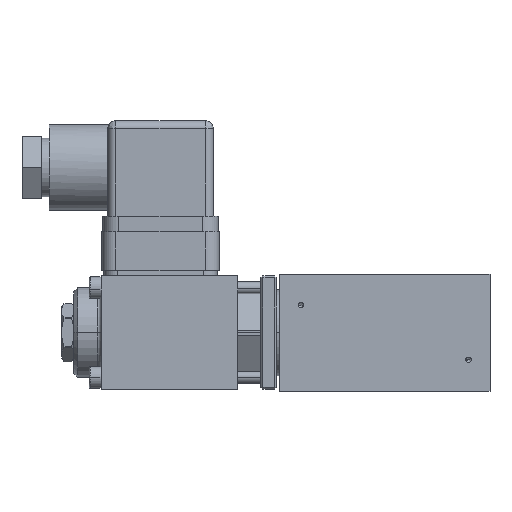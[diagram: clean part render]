
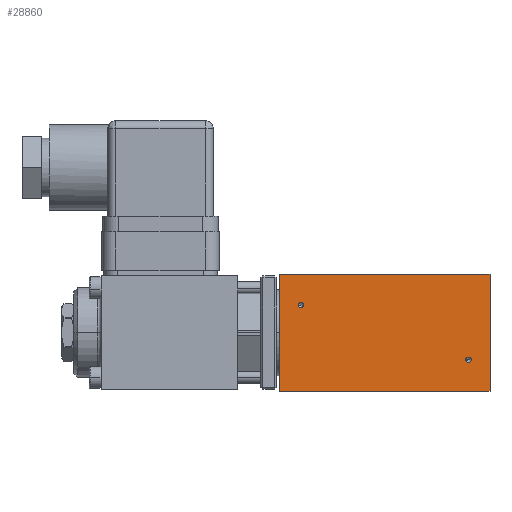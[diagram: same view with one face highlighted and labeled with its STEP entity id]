
A CAD part, top view. The second image highlights one B-rep face of the part: STEP entity #28860.
In plain terms, the highlighted planar face has unit normal (0, 0, 1).
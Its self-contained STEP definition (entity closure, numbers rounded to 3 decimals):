
#11 = CARTESIAN_POINT ( 'NONE',  ( -27., -15., 15. ) ) ;
#70 = VERTEX_POINT ( 'NONE', #11 ) ;
#140 = FACE_BOUND ( 'NONE', #12083, .T. ) ;
#326 = PLANE ( 'NONE',  #31766 ) ;
#454 = DIRECTION ( 'NONE',  ( 0., 0., 1. ) ) ;
#1011 = AXIS2_PLACEMENT_3D ( 'NONE', #28505, #11798, #31303 ) ;
#1054 = CARTESIAN_POINT ( 'NONE',  ( 21.5, -7., 15. ) ) ;
#1313 = VERTEX_POINT ( 'NONE', #20237 ) ;
#1471 = EDGE_CURVE ( 'NONE', #23912, #6515, #25928, .T. ) ;
#1763 = EDGE_CURVE ( 'NONE', #17371, #70, #21532, .T. ) ;
#3881 = DIRECTION ( 'NONE',  ( 1., 0., 0. ) ) ;
#4022 = EDGE_CURVE ( 'NONE', #11836, #20517, #35430, .T. ) ;
#6142 = AXIS2_PLACEMENT_3D ( 'NONE', #34034, #34078, #34196 ) ;
#6515 = VERTEX_POINT ( 'NONE', #14982 ) ;
#6541 = DIRECTION ( 'NONE',  ( 1., 0., 0. ) ) ;
#6782 = DIRECTION ( 'NONE',  ( 0., 0., 1. ) ) ;
#8561 = FACE_OUTER_BOUND ( 'NONE', #33897, .T. ) ;
#9745 = CARTESIAN_POINT ( 'NONE',  ( -27., 15., 15. ) ) ;
#9883 = ORIENTED_EDGE ( 'NONE', *, *, #14032, .F. ) ;
#9933 = VECTOR ( 'NONE', #16464, 1000. ) ;
#11204 = CARTESIAN_POINT ( 'NONE',  ( 20.8, -7., 15. ) ) ;
#11798 = DIRECTION ( 'NONE',  ( 0., 0., 1. ) ) ;
#11836 = VERTEX_POINT ( 'NONE', #34454 ) ;
#11930 = CARTESIAN_POINT ( 'NONE',  ( -27., 15., 15. ) ) ;
#12083 = EDGE_LOOP ( 'NONE', ( #9883, #35255 ) ) ;
#12091 = ORIENTED_EDGE ( 'NONE', *, *, #20525, .T. ) ;
#12607 = DIRECTION ( 'NONE',  ( 0., -1., 0. ) ) ;
#14032 = EDGE_CURVE ( 'NONE', #6515, #23912, #28497, .T. ) ;
#14109 = VECTOR ( 'NONE', #12607, 1000. ) ;
#14871 = EDGE_LOOP ( 'NONE', ( #26315, #16456 ) ) ;
#14982 = CARTESIAN_POINT ( 'NONE',  ( 22.2, -7., 15. ) ) ;
#16456 = ORIENTED_EDGE ( 'NONE', *, *, #30031, .F. ) ;
#16464 = DIRECTION ( 'NONE',  ( 1., 0., 0. ) ) ;
#16597 = CARTESIAN_POINT ( 'NONE',  ( -27., 15., 15. ) ) ;
#16946 = DIRECTION ( 'NONE',  ( 0., 1., 0. ) ) ;
#17371 = VERTEX_POINT ( 'NONE', #16597 ) ;
#17425 = EDGE_CURVE ( 'NONE', #25510, #1313, #24795, .T. ) ;
#17460 = VECTOR ( 'NONE', #16946, 1000. ) ;
#17488 = CARTESIAN_POINT ( 'NONE',  ( 0., 0., 15. ) ) ;
#19706 = ORIENTED_EDGE ( 'NONE', *, *, #17425, .T. ) ;
#20237 = CARTESIAN_POINT ( 'NONE',  ( 27., 15., 15. ) ) ;
#20257 = DIRECTION ( 'NONE',  ( 1., 0., 0. ) ) ;
#20517 = VERTEX_POINT ( 'NONE', #24886 ) ;
#20525 = EDGE_CURVE ( 'NONE', #70, #25510, #32243, .T. ) ;
#20591 = CARTESIAN_POINT ( 'NONE',  ( -21.5, 7., 15. ) ) ;
#20858 = DIRECTION ( 'NONE',  ( 0., 0., 1. ) ) ;
#21532 = LINE ( 'NONE', #11930, #14109 ) ;
#22089 = CARTESIAN_POINT ( 'NONE',  ( -27., -15., 15. ) ) ;
#22687 = FACE_BOUND ( 'NONE', #14871, .T. ) ;
#23581 = ORIENTED_EDGE ( 'NONE', *, *, #1763, .T. ) ;
#23912 = VERTEX_POINT ( 'NONE', #11204 ) ;
#24449 = CARTESIAN_POINT ( 'NONE',  ( 27., -15., 15. ) ) ;
#24795 = LINE ( 'NONE', #33550, #17460 ) ;
#24886 = CARTESIAN_POINT ( 'NONE',  ( -22.2, 7., 15. ) ) ;
#24959 = ORIENTED_EDGE ( 'NONE', *, *, #26466, .T. ) ;
#25510 = VERTEX_POINT ( 'NONE', #24449 ) ;
#25928 = CIRCLE ( 'NONE', #6142, 0.7 ) ;
#26315 = ORIENTED_EDGE ( 'NONE', *, *, #4022, .F. ) ;
#26466 = EDGE_CURVE ( 'NONE', #1313, #17371, #29009, .T. ) ;
#27288 = CIRCLE ( 'NONE', #1011, 0.7 ) ;
#28175 = AXIS2_PLACEMENT_3D ( 'NONE', #20591, #6782, #6541 ) ;
#28497 = CIRCLE ( 'NONE', #30976, 0.7 ) ;
#28505 = CARTESIAN_POINT ( 'NONE',  ( -21.5, 7., 15. ) ) ;
#28860 = ADVANCED_FACE ( 'NONE', ( #22687, #140, #8561 ), #326, .T. ) ;
#29009 = LINE ( 'NONE', #9745, #36486 ) ;
#30031 = EDGE_CURVE ( 'NONE', #20517, #11836, #27288, .T. ) ;
#30976 = AXIS2_PLACEMENT_3D ( 'NONE', #1054, #20858, #3881 ) ;
#31303 = DIRECTION ( 'NONE',  ( 1., 0., 0. ) ) ;
#31766 = AXIS2_PLACEMENT_3D ( 'NONE', #17488, #454, #20257 ) ;
#32114 = DIRECTION ( 'NONE',  ( -1., 0., 0. ) ) ;
#32243 = LINE ( 'NONE', #22089, #9933 ) ;
#33550 = CARTESIAN_POINT ( 'NONE',  ( 27., 15., 15. ) ) ;
#33897 = EDGE_LOOP ( 'NONE', ( #19706, #24959, #23581, #12091 ) ) ;
#34034 = CARTESIAN_POINT ( 'NONE',  ( 21.5, -7., 15. ) ) ;
#34078 = DIRECTION ( 'NONE',  ( 0., 0., 1. ) ) ;
#34196 = DIRECTION ( 'NONE',  ( 1., 0., 0. ) ) ;
#34454 = CARTESIAN_POINT ( 'NONE',  ( -20.8, 7., 15. ) ) ;
#35255 = ORIENTED_EDGE ( 'NONE', *, *, #1471, .F. ) ;
#35430 = CIRCLE ( 'NONE', #28175, 0.7 ) ;
#36486 = VECTOR ( 'NONE', #32114, 1000. ) ;
